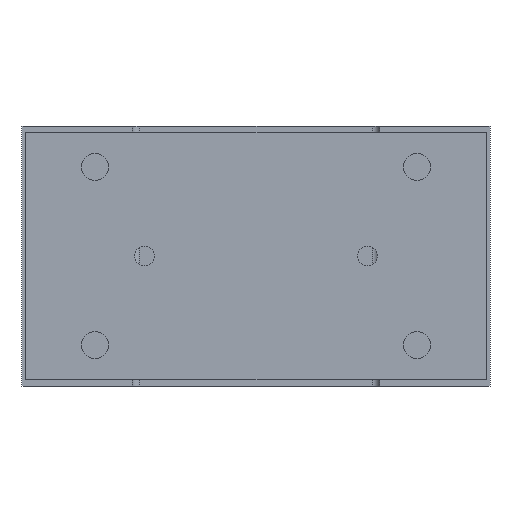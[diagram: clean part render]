
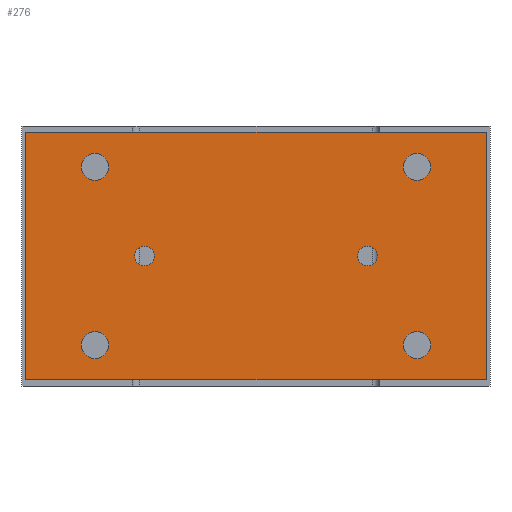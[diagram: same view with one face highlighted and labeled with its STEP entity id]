
A CAD part, left-side view. The second image highlights one B-rep face of the part: STEP entity #276.
In plain terms, the highlighted planar face has unit normal (-1, 0, 0).
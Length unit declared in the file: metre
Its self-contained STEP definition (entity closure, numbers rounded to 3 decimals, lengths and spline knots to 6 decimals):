
#276 = ADVANCED_FACE( '', ( #751, #752, #753, #754, #755, #756, #757 ), #758, .T. );
#751 = FACE_BOUND( '', #1555, .T. );
#752 = FACE_BOUND( '', #1556, .T. );
#753 = FACE_BOUND( '', #1557, .T. );
#754 = FACE_BOUND( '', #1558, .T. );
#755 = FACE_BOUND( '', #1559, .T. );
#756 = FACE_BOUND( '', #1560, .T. );
#757 = FACE_OUTER_BOUND( '', #1561, .T. );
#758 = PLANE( '', #1562 );
#1555 = EDGE_LOOP( '', ( #2397 ) );
#1556 = EDGE_LOOP( '', ( #2398 ) );
#1557 = EDGE_LOOP( '', ( #2399 ) );
#1558 = EDGE_LOOP( '', ( #2400 ) );
#1559 = EDGE_LOOP( '', ( #2401 ) );
#1560 = EDGE_LOOP( '', ( #2402 ) );
#1561 = EDGE_LOOP( '', ( #2403, #2404, #2405, #2406 ) );
#1562 = AXIS2_PLACEMENT_3D( '', #2407, #2408, #2409 );
#2397 = ORIENTED_EDGE( '', *, *, #3878, .F. );
#2398 = ORIENTED_EDGE( '', *, *, #3879, .F. );
#2399 = ORIENTED_EDGE( '', *, *, #3863, .F. );
#2400 = ORIENTED_EDGE( '', *, *, #3831, .F. );
#2401 = ORIENTED_EDGE( '', *, *, #3880, .F. );
#2402 = ORIENTED_EDGE( '', *, *, #3881, .T. );
#2403 = ORIENTED_EDGE( '', *, *, #3882, .T. );
#2404 = ORIENTED_EDGE( '', *, *, #3883, .T. );
#2405 = ORIENTED_EDGE( '', *, *, #3884, .T. );
#2406 = ORIENTED_EDGE( '', *, *, #3885, .T. );
#2407 = CARTESIAN_POINT( '', ( -0.135, 0.093, -0.1025 ) );
#2408 = DIRECTION( '', ( -1., 0., 0. ) );
#2409 = DIRECTION( '', ( 0., 0., -1. ) );
#3831 = EDGE_CURVE( '', #4408, #4408, #4409, .T. );
#3863 = EDGE_CURVE( '', #4465, #4465, #4466, .T. );
#3878 = EDGE_CURVE( '', #4490, #4490, #4491, .T. );
#3879 = EDGE_CURVE( '', #4492, #4492, #4493, .T. );
#3880 = EDGE_CURVE( '', #4494, #4494, #4495, .T. );
#3881 = EDGE_CURVE( '', #4496, #4496, #4497, .T. );
#3882 = EDGE_CURVE( '', #4498, #4499, #4500, .T. );
#3883 = EDGE_CURVE( '', #4499, #4501, #4502, .T. );
#3884 = EDGE_CURVE( '', #4501, #4503, #4504, .T. );
#3885 = EDGE_CURVE( '', #4503, #4498, #4505, .T. );
#4408 = VERTEX_POINT( '', #5247 );
#4409 = CIRCLE( '', #5248, 0.0055 );
#4465 = VERTEX_POINT( '', #5347 );
#4466 = CIRCLE( '', #5348, 0.0055 );
#4490 = VERTEX_POINT( '', #5405 );
#4491 = CIRCLE( '', #5406, 0.0055 );
#4492 = VERTEX_POINT( '', #5407 );
#4493 = CIRCLE( '', #5408, 0.0055 );
#4494 = VERTEX_POINT( '', #5409 );
#4495 = CIRCLE( '', #5410, 0.004 );
#4496 = VERTEX_POINT( '', #5411 );
#4497 = CIRCLE( '', #5412, 0.004 );
#4498 = VERTEX_POINT( '', #5413 );
#4499 = VERTEX_POINT( '', #5414 );
#4500 = LINE( '', #5415, #5416 );
#4501 = VERTEX_POINT( '', #5417 );
#4502 = LINE( '', #5418, #5419 );
#4503 = VERTEX_POINT( '', #5420 );
#4504 = LINE( '', #5421, #5422 );
#4505 = LINE( '', #5423, #5424 );
#5247 = CARTESIAN_POINT( '', ( -0.135, -0.0705, -0.0885 ) );
#5248 = AXIS2_PLACEMENT_3D( '', #6523, #6524, #6525 );
#5347 = CARTESIAN_POINT( '', ( -0.135, 0.0595, -0.0885 ) );
#5348 = AXIS2_PLACEMENT_3D( '', #6575, #6576, #6577 );
#5405 = CARTESIAN_POINT( '', ( -0.135, 0.0595, -0.0165 ) );
#5406 = AXIS2_PLACEMENT_3D( '', #6602, #6603, #6604 );
#5407 = CARTESIAN_POINT( '', ( -0.135, -0.0705, -0.0165 ) );
#5408 = AXIS2_PLACEMENT_3D( '', #6605, #6606, #6607 );
#5409 = CARTESIAN_POINT( '', ( -0.135, 0.041, -0.0525 ) );
#5410 = AXIS2_PLACEMENT_3D( '', #6608, #6609, #6610 );
#5411 = CARTESIAN_POINT( '', ( -0.135, -0.041, -0.0525 ) );
#5412 = AXIS2_PLACEMENT_3D( '', #6611, #6612, #6613 );
#5413 = CARTESIAN_POINT( '', ( -0.135, 0.093, -0.0025 ) );
#5414 = CARTESIAN_POINT( '', ( -0.135, 0.093, -0.1025 ) );
#5415 = CARTESIAN_POINT( '', ( -0.135, 0.093, -0.0025 ) );
#5416 = VECTOR( '', #6614, 1. );
#5417 = CARTESIAN_POINT( '', ( -0.135, -0.093, -0.1025 ) );
#5418 = CARTESIAN_POINT( '', ( -0.135, 0.093, -0.1025 ) );
#5419 = VECTOR( '', #6615, 1. );
#5420 = CARTESIAN_POINT( '', ( -0.135, -0.093, -0.0025 ) );
#5421 = CARTESIAN_POINT( '', ( -0.135, -0.093, -0.1025 ) );
#5422 = VECTOR( '', #6616, 1. );
#5423 = CARTESIAN_POINT( '', ( -0.135, -0.093, -0.0025 ) );
#5424 = VECTOR( '', #6617, 1. );
#6523 = CARTESIAN_POINT( '', ( -0.135, -0.065, -0.0885 ) );
#6524 = DIRECTION( '', ( -1., 0., 0. ) );
#6525 = DIRECTION( '', ( 0., -1., 0. ) );
#6575 = CARTESIAN_POINT( '', ( -0.135, 0.065, -0.0885 ) );
#6576 = DIRECTION( '', ( -1., 0., 0. ) );
#6577 = DIRECTION( '', ( 0., -1., 0. ) );
#6602 = CARTESIAN_POINT( '', ( -0.135, 0.065, -0.0165 ) );
#6603 = DIRECTION( '', ( -1., 0., 0. ) );
#6604 = DIRECTION( '', ( 0., -1., 0. ) );
#6605 = CARTESIAN_POINT( '', ( -0.135, -0.065, -0.0165 ) );
#6606 = DIRECTION( '', ( -1., 0., 0. ) );
#6607 = DIRECTION( '', ( 0., -1., 0. ) );
#6608 = CARTESIAN_POINT( '', ( -0.135, 0.045, -0.0525 ) );
#6609 = DIRECTION( '', ( -1., 0., 0. ) );
#6610 = DIRECTION( '', ( 0., -1., 0. ) );
#6611 = CARTESIAN_POINT( '', ( -0.135, -0.045, -0.0525 ) );
#6612 = DIRECTION( '', ( 1., 0., 0. ) );
#6613 = DIRECTION( '', ( 0., 1., 0. ) );
#6614 = DIRECTION( '', ( 0., 0., -1. ) );
#6615 = DIRECTION( '', ( 0., -1., 0. ) );
#6616 = DIRECTION( '', ( 0., 0., 1. ) );
#6617 = DIRECTION( '', ( 0., 1., 0. ) );
